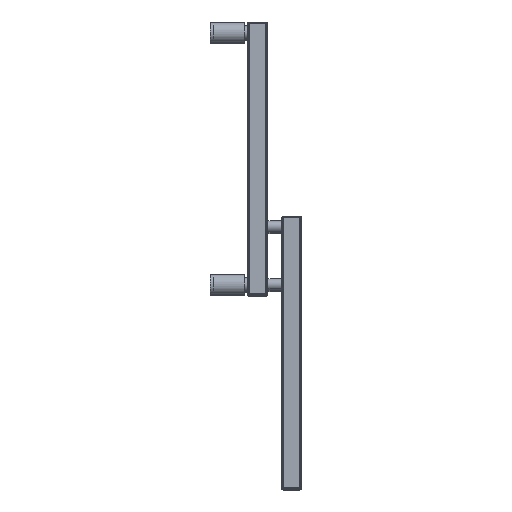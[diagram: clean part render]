
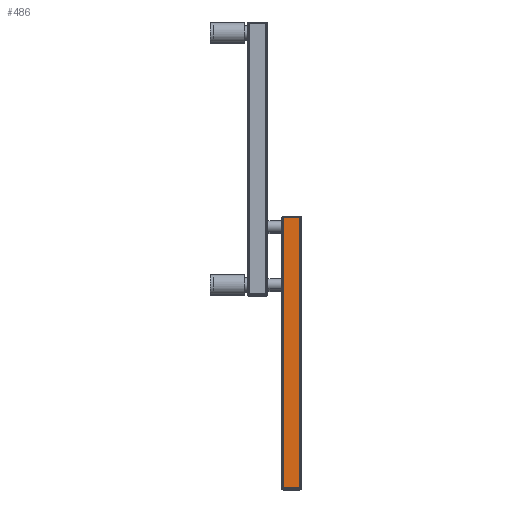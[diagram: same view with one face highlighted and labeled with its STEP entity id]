
A CAD part, top view. The second image highlights one B-rep face of the part: STEP entity #486.
In plain terms, the highlighted planar face has unit normal (0, 0, 1) as drawn and (0, -1, 0) by its records, which use the part's own axes.
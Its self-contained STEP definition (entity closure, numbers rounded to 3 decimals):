
#486 = ADVANCED_FACE( '', ( #1004 ), #1005, .T. );
#1004 = FACE_OUTER_BOUND( '', #1659, .T. );
#1005 = PLANE( '', #1660 );
#1659 = EDGE_LOOP( '', ( #2784, #2785, #2786, #2787 ) );
#1660 = AXIS2_PLACEMENT_3D( '', #2788, #2789, #2790 );
#2784 = ORIENTED_EDGE( '', *, *, #3443, .T. );
#2785 = ORIENTED_EDGE( '', *, *, #3677, .T. );
#2786 = ORIENTED_EDGE( '', *, *, #3681, .F. );
#2787 = ORIENTED_EDGE( '', *, *, #3682, .T. );
#2788 = CARTESIAN_POINT( '', ( 15., -15., 400. ) );
#2789 = DIRECTION( '', ( 0., -1., 0. ) );
#2790 = DIRECTION( '', ( 1., 0., 0. ) );
#3443 = EDGE_CURVE( '', #4067, #4080, #4082, .T. );
#3677 = EDGE_CURVE( '', #4080, #4421, #4423, .T. );
#3681 = EDGE_CURVE( '', #4428, #4421, #4429, .T. );
#3682 = EDGE_CURVE( '', #4428, #4067, #4430, .F. );
#4067 = VERTEX_POINT( '', #4964 );
#4080 = VERTEX_POINT( '', #4980 );
#4082 = LINE( '', #4982, #4983 );
#4421 = VERTEX_POINT( '', #5554 );
#4423 = LINE( '', #5556, #5557 );
#4428 = VERTEX_POINT( '', #5562 );
#4429 = LINE( '', #5563, #5564 );
#4430 = LINE( '', #5565, #5566 );
#4964 = CARTESIAN_POINT( '', ( 12., -15., 400. ) );
#4980 = CARTESIAN_POINT( '', ( -12., -15., 400. ) );
#4982 = CARTESIAN_POINT( '', ( 15., -15., 400. ) );
#4983 = VECTOR( '', #5961, 1000. );
#5554 = CARTESIAN_POINT( '', ( -12., -15., 0. ) );
#5556 = CARTESIAN_POINT( '', ( -12., -15., 400. ) );
#5557 = VECTOR( '', #6271, 1000. );
#5562 = CARTESIAN_POINT( '', ( 12., -15., 0. ) );
#5563 = CARTESIAN_POINT( '', ( 15., -15., 0. ) );
#5564 = VECTOR( '', #6275, 1000. );
#5565 = CARTESIAN_POINT( '', ( 12., -15., 400. ) );
#5566 = VECTOR( '', #6276, 1000. );
#5961 = DIRECTION( '', ( -1., 0., 0. ) );
#6271 = DIRECTION( '', ( 0., 0., -1. ) );
#6275 = DIRECTION( '', ( -1., 0., 0. ) );
#6276 = DIRECTION( '', ( 0., 0., -1. ) );
